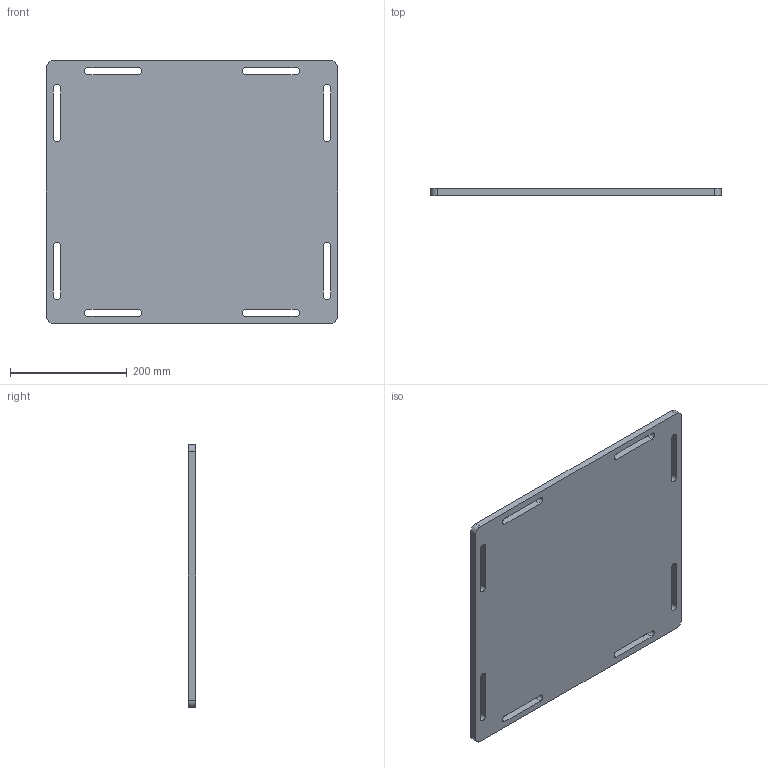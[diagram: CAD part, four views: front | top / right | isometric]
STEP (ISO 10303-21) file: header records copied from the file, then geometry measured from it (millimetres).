
FILE_DESCRIPTION(/* description */ (''),/* implementation_level */ '2;1');
FILE_NAME(/* name */ 'E:\Panel3.stp',/* time_stamp */ '2015-03-19T21:40:09+08:00',/* author */ ('s41632'),/* organization */ (''),/* preprocessor_version */ 'ST-DEVELOPER v15.2',/* originating_system */ 'Autodesk Inventor 2014',/* authorisation */ '');
FILE_SCHEMA (('AUTOMOTIVE_DESIGN { 1 0 10303 214 3 1 1 }'));
Length unit declared in the file: millimetre
Products named in the file (1): Panel3
Bounding box: 498 x 12 x 450 mm (x, y, z)
Volume: 2577283.9 mm3; surface area: 472198.3 mm2
Topology: 1 solids, 1 shells, 42 faces, 120 edges, 80 vertices
Faces by surface type: plane 22, cylinder 20
Entity records: 1440 total; most frequent: DIRECTION 246, CARTESIAN_POINT 243, ORIENTED_EDGE 240, EDGE_CURVE 120, AXIS2_PLACEMENT_3D 83, LINE 80, VECTOR 80, VERTEX_POINT 80
